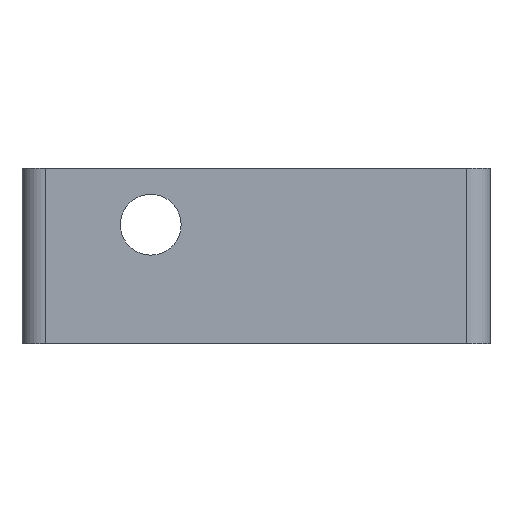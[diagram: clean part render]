
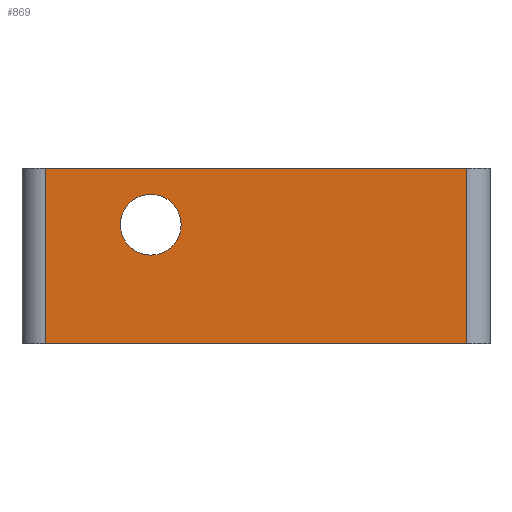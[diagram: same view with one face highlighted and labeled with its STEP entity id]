
A CAD part, front view. The second image highlights one B-rep face of the part: STEP entity #869.
In plain terms, the highlighted planar face has unit normal (0, -1, 0).
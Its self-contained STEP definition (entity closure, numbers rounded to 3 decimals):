
#44 = PLANE('',#45);
#45 = AXIS2_PLACEMENT_3D('',#46,#47,#48);
#46 = CARTESIAN_POINT('',(0.,0.,30.));
#47 = DIRECTION('',(0.,0.,1.));
#48 = DIRECTION('',(1.,0.,0.));
#72 = CYLINDRICAL_SURFACE('',#73,4.);
#73 = AXIS2_PLACEMENT_3D('',#74,#75,#76);
#74 = CARTESIAN_POINT('',(4.,4.,0.));
#75 = DIRECTION('',(0.,0.,1.));
#76 = DIRECTION('',(-1.,-0.,0.));
#100 = PLANE('',#101);
#101 = AXIS2_PLACEMENT_3D('',#102,#103,#104);
#102 = CARTESIAN_POINT('',(0.,0.,0.));
#103 = DIRECTION('',(0.,0.,1.));
#104 = DIRECTION('',(1.,0.,0.));
#174 = VERTEX_POINT('',#175);
#175 = CARTESIAN_POINT('',(4.,0.,30.));
#197 = EDGE_CURVE('',#174,#198,#200,.T.);
#198 = VERTEX_POINT('',#199);
#199 = CARTESIAN_POINT('',(76.,0.,30.));
#200 = SURFACE_CURVE('',#201,(#205,#212),.PCURVE_S1.);
#201 = LINE('',#202,#203);
#202 = CARTESIAN_POINT('',(0.,0.,30.));
#203 = VECTOR('',#204,1.);
#204 = DIRECTION('',(1.,0.,0.));
#205 = PCURVE('',#44,#206);
#206 = DEFINITIONAL_REPRESENTATION('',(#207),#211);
#207 = LINE('',#208,#209);
#208 = CARTESIAN_POINT('',(0.,0.));
#209 = VECTOR('',#210,1.);
#210 = DIRECTION('',(1.,0.));
#211 = ( GEOMETRIC_REPRESENTATION_CONTEXT(2) 
PARAMETRIC_REPRESENTATION_CONTEXT() REPRESENTATION_CONTEXT('2D SPACE',''
  ) );
#212 = PCURVE('',#213,#218);
#213 = PLANE('',#214);
#214 = AXIS2_PLACEMENT_3D('',#215,#216,#217);
#215 = CARTESIAN_POINT('',(0.,0.,0.));
#216 = DIRECTION('',(0.,1.,0.));
#217 = DIRECTION('',(0.,0.,1.));
#218 = DEFINITIONAL_REPRESENTATION('',(#219),#223);
#219 = LINE('',#220,#221);
#220 = CARTESIAN_POINT('',(30.,0.));
#221 = VECTOR('',#222,1.);
#222 = DIRECTION('',(0.,1.));
#223 = ( GEOMETRIC_REPRESENTATION_CONTEXT(2) 
PARAMETRIC_REPRESENTATION_CONTEXT() REPRESENTATION_CONTEXT('2D SPACE',''
  ) );
#246 = CYLINDRICAL_SURFACE('',#247,4.);
#247 = AXIS2_PLACEMENT_3D('',#248,#249,#250);
#248 = CARTESIAN_POINT('',(76.,4.,0.));
#249 = DIRECTION('',(0.,0.,1.));
#250 = DIRECTION('',(1.,0.,-0.));
#595 = VERTEX_POINT('',#596);
#596 = CARTESIAN_POINT('',(4.,0.,0.));
#618 = EDGE_CURVE('',#595,#174,#619,.T.);
#619 = SURFACE_CURVE('',#620,(#624,#631),.PCURVE_S1.);
#620 = LINE('',#621,#622);
#621 = CARTESIAN_POINT('',(4.,0.,0.));
#622 = VECTOR('',#623,1.);
#623 = DIRECTION('',(0.,0.,1.));
#624 = PCURVE('',#72,#625);
#625 = DEFINITIONAL_REPRESENTATION('',(#626),#630);
#626 = LINE('',#627,#628);
#627 = CARTESIAN_POINT('',(1.571,0.));
#628 = VECTOR('',#629,1.);
#629 = DIRECTION('',(0.,1.));
#630 = ( GEOMETRIC_REPRESENTATION_CONTEXT(2) 
PARAMETRIC_REPRESENTATION_CONTEXT() REPRESENTATION_CONTEXT('2D SPACE',''
  ) );
#631 = PCURVE('',#213,#632);
#632 = DEFINITIONAL_REPRESENTATION('',(#633),#637);
#633 = LINE('',#634,#635);
#634 = CARTESIAN_POINT('',(0.,4.));
#635 = VECTOR('',#636,1.);
#636 = DIRECTION('',(1.,0.));
#637 = ( GEOMETRIC_REPRESENTATION_CONTEXT(2) 
PARAMETRIC_REPRESENTATION_CONTEXT() REPRESENTATION_CONTEXT('2D SPACE',''
  ) );
#700 = EDGE_CURVE('',#595,#701,#703,.T.);
#701 = VERTEX_POINT('',#702);
#702 = CARTESIAN_POINT('',(76.,0.,0.));
#703 = SURFACE_CURVE('',#704,(#708,#715),.PCURVE_S1.);
#704 = LINE('',#705,#706);
#705 = CARTESIAN_POINT('',(0.,0.,0.));
#706 = VECTOR('',#707,1.);
#707 = DIRECTION('',(1.,0.,0.));
#708 = PCURVE('',#100,#709);
#709 = DEFINITIONAL_REPRESENTATION('',(#710),#714);
#710 = LINE('',#711,#712);
#711 = CARTESIAN_POINT('',(0.,0.));
#712 = VECTOR('',#713,1.);
#713 = DIRECTION('',(1.,0.));
#714 = ( GEOMETRIC_REPRESENTATION_CONTEXT(2) 
PARAMETRIC_REPRESENTATION_CONTEXT() REPRESENTATION_CONTEXT('2D SPACE',''
  ) );
#715 = PCURVE('',#213,#716);
#716 = DEFINITIONAL_REPRESENTATION('',(#717),#721);
#717 = LINE('',#718,#719);
#718 = CARTESIAN_POINT('',(0.,0.));
#719 = VECTOR('',#720,1.);
#720 = DIRECTION('',(0.,1.));
#721 = ( GEOMETRIC_REPRESENTATION_CONTEXT(2) 
PARAMETRIC_REPRESENTATION_CONTEXT() REPRESENTATION_CONTEXT('2D SPACE',''
  ) );
#869 = ADVANCED_FACE('',(#870,#896),#213,.F.);
#870 = FACE_BOUND('',#871,.F.);
#871 = EDGE_LOOP('',(#872,#873,#874,#875));
#872 = ORIENTED_EDGE('',*,*,#700,.F.);
#873 = ORIENTED_EDGE('',*,*,#618,.T.);
#874 = ORIENTED_EDGE('',*,*,#197,.T.);
#875 = ORIENTED_EDGE('',*,*,#876,.F.);
#876 = EDGE_CURVE('',#701,#198,#877,.T.);
#877 = SURFACE_CURVE('',#878,(#882,#889),.PCURVE_S1.);
#878 = LINE('',#879,#880);
#879 = CARTESIAN_POINT('',(76.,0.,0.));
#880 = VECTOR('',#881,1.);
#881 = DIRECTION('',(0.,0.,1.));
#882 = PCURVE('',#213,#883);
#883 = DEFINITIONAL_REPRESENTATION('',(#884),#888);
#884 = LINE('',#885,#886);
#885 = CARTESIAN_POINT('',(0.,76.));
#886 = VECTOR('',#887,1.);
#887 = DIRECTION('',(1.,0.));
#888 = ( GEOMETRIC_REPRESENTATION_CONTEXT(2) 
PARAMETRIC_REPRESENTATION_CONTEXT() REPRESENTATION_CONTEXT('2D SPACE',''
  ) );
#889 = PCURVE('',#246,#890);
#890 = DEFINITIONAL_REPRESENTATION('',(#891),#895);
#891 = LINE('',#892,#893);
#892 = CARTESIAN_POINT('',(-1.571,0.));
#893 = VECTOR('',#894,1.);
#894 = DIRECTION('',(-0.,1.));
#895 = ( GEOMETRIC_REPRESENTATION_CONTEXT(2) 
PARAMETRIC_REPRESENTATION_CONTEXT() REPRESENTATION_CONTEXT('2D SPACE',''
  ) );
#896 = FACE_BOUND('',#897,.F.);
#897 = EDGE_LOOP('',(#898));
#898 = ORIENTED_EDGE('',*,*,#899,.F.);
#899 = EDGE_CURVE('',#900,#900,#902,.T.);
#900 = VERTEX_POINT('',#901);
#901 = CARTESIAN_POINT('',(22.,0.,25.55));
#902 = SURFACE_CURVE('',#903,(#908,#915),.PCURVE_S1.);
#903 = CIRCLE('',#904,5.2);
#904 = AXIS2_PLACEMENT_3D('',#905,#906,#907);
#905 = CARTESIAN_POINT('',(22.,0.,20.35));
#906 = DIRECTION('',(0.,1.,0.));
#907 = DIRECTION('',(0.,-0.,1.));
#908 = PCURVE('',#213,#909);
#909 = DEFINITIONAL_REPRESENTATION('',(#910),#914);
#910 = CIRCLE('',#911,5.2);
#911 = AXIS2_PLACEMENT_2D('',#912,#913);
#912 = CARTESIAN_POINT('',(20.35,22.));
#913 = DIRECTION('',(1.,0.));
#914 = ( GEOMETRIC_REPRESENTATION_CONTEXT(2) 
PARAMETRIC_REPRESENTATION_CONTEXT() REPRESENTATION_CONTEXT('2D SPACE',''
  ) );
#915 = PCURVE('',#916,#921);
#916 = CYLINDRICAL_SURFACE('',#917,5.2);
#917 = AXIS2_PLACEMENT_3D('',#918,#919,#920);
#918 = CARTESIAN_POINT('',(22.,-0.1,20.35));
#919 = DIRECTION('',(0.,1.,0.));
#920 = DIRECTION('',(0.,-0.,1.));
#921 = DEFINITIONAL_REPRESENTATION('',(#922),#926);
#922 = LINE('',#923,#924);
#923 = CARTESIAN_POINT('',(0.,0.1));
#924 = VECTOR('',#925,1.);
#925 = DIRECTION('',(1.,0.));
#926 = ( GEOMETRIC_REPRESENTATION_CONTEXT(2) 
PARAMETRIC_REPRESENTATION_CONTEXT() REPRESENTATION_CONTEXT('2D SPACE',''
  ) );
